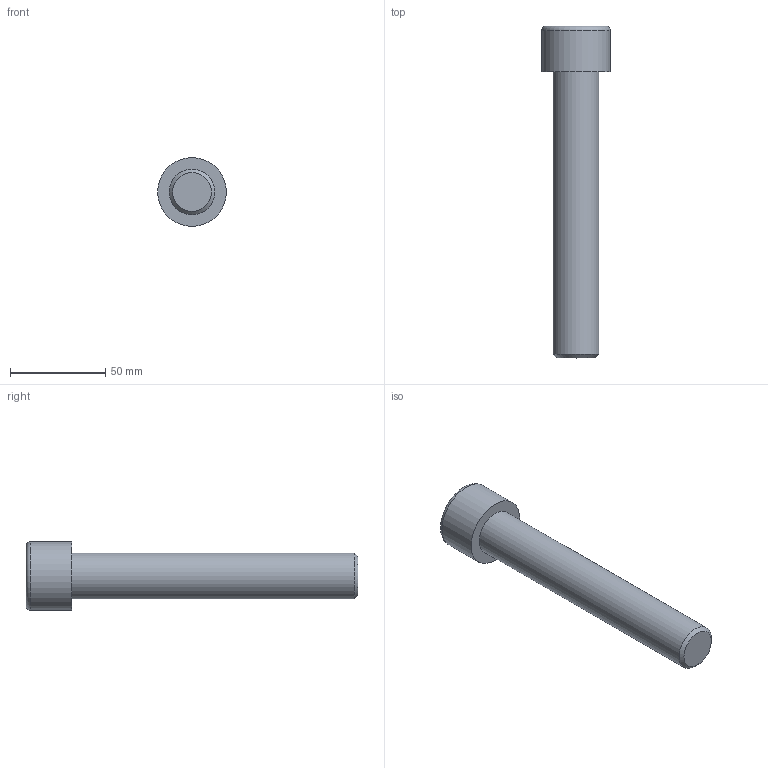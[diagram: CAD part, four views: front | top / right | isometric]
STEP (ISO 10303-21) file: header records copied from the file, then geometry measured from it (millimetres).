
FILE_DESCRIPTION(/* description */ (''),/* implementation_level */ '2;1');
FILE_NAME(/* name */ 'C:\Users\D\Documents\Inventor\各種小物\JIS\JIS B 1176 六角穴付きボルト\M24x150.stp',/* time_stamp */ '2022-05-09T18:59:45+09:00',/* author */ ('D'),/* organization */ (''),/* preprocessor_version */ 'ST-DEVELOPER v18',/* originating_system */ 'Autodesk Inventor 2020',/* authorisation */ '');
FILE_SCHEMA (('AUTOMOTIVE_DESIGN { 1 0 10303 214 3 1 1 }'));
Length unit declared in the file: millimetre
Products named in the file (1): M1.6x2.5
Bounding box: 36 x 174 x 36 mm (x, y, z)
Volume: 87502.9 mm3; surface area: 16730 mm2
Topology: 1 solids, 1 shells, 14 faces, 33 edges, 22 vertices
Faces by surface type: plane 9, cone 2, cylinder 2, torus 1
Full cylindrical faces by diameter (mm): 24 x1, 36 x1
Entity records: 435 total; most frequent: CARTESIAN_POINT 83, ORIENTED_EDGE 64, DIRECTION 64, EDGE_CURVE 32, AXIS2_PLACEMENT_3D 24, VERTEX_POINT 22, EDGE_LOOP 16, LINE 16
